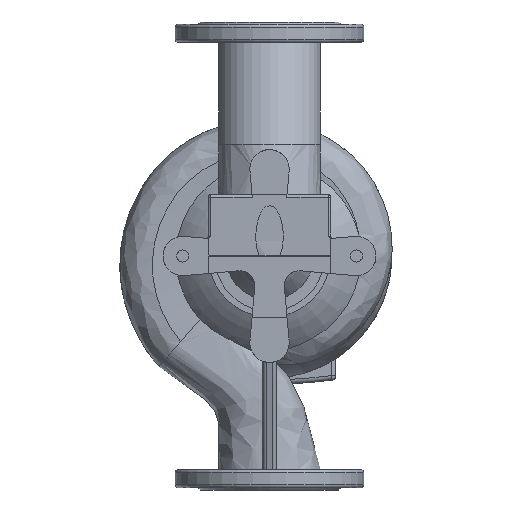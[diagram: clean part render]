
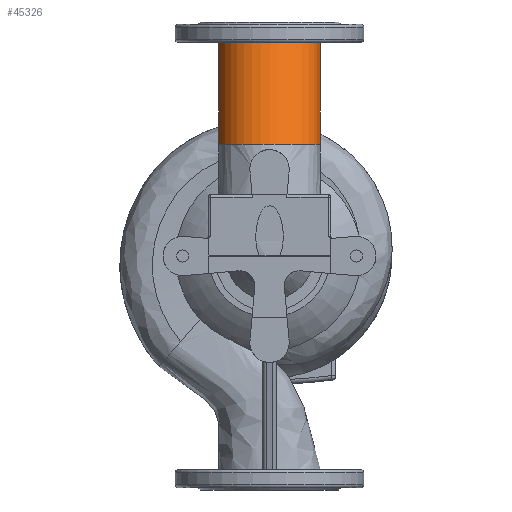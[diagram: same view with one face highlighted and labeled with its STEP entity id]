
A CAD part, front view. The second image highlights one B-rep face of the part: STEP entity #45326.
In plain terms, the highlighted free-form (B-spline) face has degree [3, 1] with [4, 2] control points.
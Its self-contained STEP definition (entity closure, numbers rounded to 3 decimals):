
#667 = CARTESIAN_POINT ( 'NONE',  ( -67.5, -62.955, 147.993 ) ) ;
#1466 = CARTESIAN_POINT ( 'NONE',  ( -67.5, 0., 283. ) ) ;
#1908 = DIRECTION ( 'NONE',  ( 0., 0., -1. ) ) ;
#3265 = DIRECTION ( 'NONE',  ( -1., 0., 0. ) ) ;
#3527 = DIRECTION ( 'NONE',  ( 0., 0., -1. ) ) ;
#5600 = EDGE_CURVE ( 'NONE', #36244, #17085, #50910, .T. ) ;
#5832 = CARTESIAN_POINT ( 'NONE',  ( 67.5, -62.955, 147.993 ) ) ;
#8582 =( BOUNDED_SURFACE ( )  B_SPLINE_SURFACE ( 3, 1, ( 
 ( #9644, #14032 ),
 ( #51317, #46940 ),
 ( #26352, #30221 ),
 ( #30738, #26088 ) ),
 .UNSPECIFIED., .F., .F., .F. ) 
 B_SPLINE_SURFACE_WITH_KNOTS ( ( 4, 4 ),
 ( 2, 2 ),
 ( 0.5, 1. ),
 ( 0., 1. ),
 .UNSPECIFIED. ) 
 GEOMETRIC_REPRESENTATION_ITEM ( )  RATIONAL_B_SPLINE_SURFACE ( (
 ( 1., 1.),
 ( 0.333, 0.333),
 ( 0.333, 0.333),
 ( 1., 1.) ) ) 
 REPRESENTATION_ITEM ( '' )  SURFACE ( )  );
#9644 = CARTESIAN_POINT ( 'NONE',  ( 67.5, -62.955, 147.993 ) ) ;
#9960 = EDGE_LOOP ( 'NONE', ( #37319, #47772, #48310, #24863 ) ) ;
#10383 = DIRECTION ( 'NONE',  ( -1., 0., 0. ) ) ;
#12776 = CARTESIAN_POINT ( 'NONE',  ( -67.5, -62.955, 147.993 ) ) ;
#14032 = CARTESIAN_POINT ( 'NONE',  ( 67.5, 0., 283. ) ) ;
#15829 = CIRCLE ( 'NONE', #42070, 67.5 ) ;
#15881 = B_SPLINE_CURVE_WITH_KNOTS ( 'NONE', 1,
 ( #5832, #22517 ),
 .UNSPECIFIED., .F., .F.,
 ( 2, 2 ),
 ( 0., 1. ),
 .UNSPECIFIED. ) ;
#17085 = VERTEX_POINT ( 'NONE', #46067 ) ;
#17241 = EDGE_CURVE ( 'NONE', #44510, #26569, #15829, .T. ) ;
#17615 = FACE_OUTER_BOUND ( 'NONE', #9960, .T. ) ;
#18096 = B_SPLINE_CURVE_WITH_KNOTS ( 'NONE', 1,
 ( #667, #1466 ),
 .UNSPECIFIED., .F., .F.,
 ( 2, 2 ),
 ( 0., 1. ),
 .UNSPECIFIED. ) ;
#19960 = CARTESIAN_POINT ( 'NONE',  ( 0., 0., 283. ) ) ;
#22517 = CARTESIAN_POINT ( 'NONE',  ( 67.5, 0., 283. ) ) ;
#24863 = ORIENTED_EDGE ( 'NONE', *, *, #50007, .F. ) ;
#26088 = CARTESIAN_POINT ( 'NONE',  ( -67.5, 0., 283. ) ) ;
#26352 = CARTESIAN_POINT ( 'NONE',  ( -67.5, -197.955, 147.993 ) ) ;
#26569 = VERTEX_POINT ( 'NONE', #12776 ) ;
#30221 = CARTESIAN_POINT ( 'NONE',  ( -67.5, -135., 283. ) ) ;
#30738 = CARTESIAN_POINT ( 'NONE',  ( -67.5, -62.955, 147.993 ) ) ;
#31211 = CARTESIAN_POINT ( 'NONE',  ( 0., -62.955, 147.993 ) ) ;
#36244 = VERTEX_POINT ( 'NONE', #42589 ) ;
#37319 = ORIENTED_EDGE ( 'NONE', *, *, #17241, .F. ) ;
#40422 = AXIS2_PLACEMENT_3D ( 'NONE', #19960, #3527, #3265 ) ;
#42070 = AXIS2_PLACEMENT_3D ( 'NONE', #31211, #1908, #10383 ) ;
#42589 = CARTESIAN_POINT ( 'NONE',  ( 67.5, 0., 283. ) ) ;
#44510 = VERTEX_POINT ( 'NONE', #53312 ) ;
#45326 = ADVANCED_FACE ( 'NONE', ( #17615 ), #8582, .F. ) ;
#45554 = EDGE_CURVE ( 'NONE', #44510, #36244, #15881, .T. ) ;
#46067 = CARTESIAN_POINT ( 'NONE',  ( -67.5, 0., 283. ) ) ;
#46940 = CARTESIAN_POINT ( 'NONE',  ( 67.5, -135., 283. ) ) ;
#47772 = ORIENTED_EDGE ( 'NONE', *, *, #45554, .T. ) ;
#48310 = ORIENTED_EDGE ( 'NONE', *, *, #5600, .T. ) ;
#50007 = EDGE_CURVE ( 'NONE', #26569, #17085, #18096, .T. ) ;
#50910 = CIRCLE ( 'NONE', #40422, 67.5 ) ;
#51317 = CARTESIAN_POINT ( 'NONE',  ( 67.5, -197.955, 147.993 ) ) ;
#53312 = CARTESIAN_POINT ( 'NONE',  ( 67.5, -62.955, 147.993 ) ) ;
